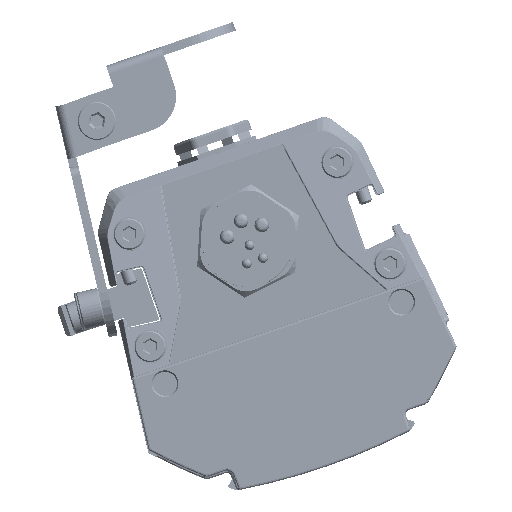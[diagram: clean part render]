
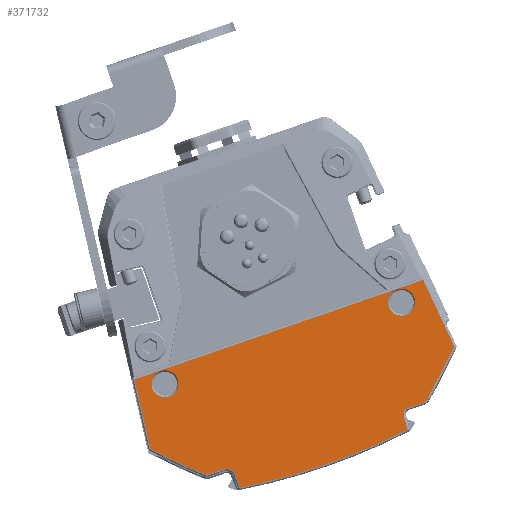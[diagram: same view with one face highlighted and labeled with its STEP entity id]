
A CAD part, left-side view. The second image highlights one B-rep face of the part: STEP entity #371732.
In plain terms, the highlighted planar face has unit normal (-1, 0, 0).
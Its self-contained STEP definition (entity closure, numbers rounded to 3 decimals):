
#371542=CARTESIAN_POINT('',(-339.713,-395.017,-205.8));
#371543=DIRECTION('',(-1.,0.,0.));
#371544=DIRECTION('',(0.,-0.326,-0.945));
#371545=AXIS2_PLACEMENT_3D('',#371542,#371543,#371544);
#371546=PLANE('',#371545);
#371547=CARTESIAN_POINT('',(-339.717,-218.37,39.37));
#371548=VERTEX_POINT('',#371547);
#371549=CARTESIAN_POINT('',(-339.717,-217.39,42.215));
#371550=DIRECTION('',(1.,0.,0.));
#371551=DIRECTION('',(0.,-0.326,-0.945));
#371552=AXIS2_PLACEMENT_3D('',#371549,#371550,#371551);
#371553=CIRCLE('',#371552,3.009);
#371554=EDGE_CURVE('',#371548,#371548,#371553,.T.);
#371555=ORIENTED_EDGE('',*,*,#371554,.T.);
#371556=EDGE_LOOP('',(#371555));
#371557=FACE_BOUND('',#371556,.T.);
#371558=CARTESIAN_POINT('',(-339.72,-165.425,21.128));
#371559=VERTEX_POINT('',#371558);
#371560=CARTESIAN_POINT('',(-339.72,-164.445,23.972));
#371561=DIRECTION('',(1.,0.,0.));
#371562=DIRECTION('',(0.,-0.326,-0.945));
#371563=AXIS2_PLACEMENT_3D('',#371560,#371561,#371562);
#371564=CIRCLE('',#371563,3.009);
#371565=EDGE_CURVE('',#371559,#371559,#371564,.T.);
#371566=ORIENTED_EDGE('',*,*,#371565,.T.);
#371567=EDGE_LOOP('',(#371566));
#371568=FACE_BOUND('',#371567,.T.);
#371569=CARTESIAN_POINT('',(-339.719,-180.255,3.528));
#371570=VERTEX_POINT('',#371569);
#371571=CARTESIAN_POINT('',(-339.719,-181.372,0.765));
#371572=VERTEX_POINT('',#371571);
#371573=CARTESIAN_POINT('',(-339.719,-180.255,3.528));
#371574=DIRECTION('',(0.,-0.375,-0.927));
#371575=VECTOR('',#371574,2.98);
#371576=LINE('',#371573,#371575);
#371577=EDGE_CURVE('',#371570,#371572,#371576,.T.);
#371578=ORIENTED_EDGE('',*,*,#371577,.T.);
#371579=CARTESIAN_POINT('',(-339.718,-200.236,5.859));
#371580=VERTEX_POINT('',#371579);
#371581=CARTESIAN_POINT('',(-339.718,-153.451,141.643));
#371582=DIRECTION('',(-1.,0.,0.));
#371583=DIRECTION('',(0.,-0.326,-0.945));
#371584=AXIS2_PLACEMENT_3D('',#371581,#371582,#371583);
#371585=CIRCLE('',#371584,143.618);
#371586=EDGE_CURVE('',#371572,#371580,#371585,.T.);
#371587=ORIENTED_EDGE('',*,*,#371586,.T.);
#371588=CARTESIAN_POINT('',(-339.718,-218.72,13.713));
#371589=VERTEX_POINT('',#371588);
#371590=CARTESIAN_POINT('',(-339.718,-153.451,141.643));
#371591=DIRECTION('',(-1.,0.,0.));
#371592=DIRECTION('',(0.,-0.326,-0.945));
#371593=AXIS2_PLACEMENT_3D('',#371590,#371591,#371592);
#371594=CIRCLE('',#371593,143.618);
#371595=EDGE_CURVE('',#371580,#371589,#371594,.T.);
#371596=ORIENTED_EDGE('',*,*,#371595,.T.);
#371597=CARTESIAN_POINT('',(-339.718,-217.923,16.49));
#371598=VERTEX_POINT('',#371597);
#371599=CARTESIAN_POINT('',(-339.718,-218.72,13.713));
#371600=DIRECTION('',(0.,0.276,0.961));
#371601=VECTOR('',#371600,2.889);
#371602=LINE('',#371599,#371601);
#371603=EDGE_CURVE('',#371589,#371598,#371602,.T.);
#371604=ORIENTED_EDGE('',*,*,#371603,.T.);
#371605=CARTESIAN_POINT('',(-339.717,-218.012,17.915));
#371606=VERTEX_POINT('',#371605);
#371607=CARTESIAN_POINT('',(-339.717,-219.716,17.092));
#371608=DIRECTION('',(1.,0.,0.));
#371609=DIRECTION('',(0.,-0.326,-0.945));
#371610=AXIS2_PLACEMENT_3D('',#371607,#371608,#371609);
#371611=CIRCLE('',#371610,1.892);
#371612=EDGE_CURVE('',#371598,#371606,#371611,.T.);
#371613=ORIENTED_EDGE('',*,*,#371612,.T.);
#371614=CARTESIAN_POINT('',(-339.717,-218.703,18.528));
#371615=VERTEX_POINT('',#371614);
#371616=CARTESIAN_POINT('',(-339.717,-219.093,17.393));
#371617=DIRECTION('',(1.,0.,0.));
#371618=DIRECTION('',(0.,-0.326,-0.945));
#371619=AXIS2_PLACEMENT_3D('',#371616,#371617,#371618);
#371620=CIRCLE('',#371619,1.2);
#371621=EDGE_CURVE('',#371606,#371615,#371620,.T.);
#371622=ORIENTED_EDGE('',*,*,#371621,.T.);
#371623=CARTESIAN_POINT('',(-339.717,-222.294,19.764));
#371624=VERTEX_POINT('',#371623);
#371625=CARTESIAN_POINT('',(-339.717,-218.703,18.528));
#371626=DIRECTION('',(0.,-0.946,0.325));
#371627=VECTOR('',#371626,3.798);
#371628=LINE('',#371625,#371627);
#371629=EDGE_CURVE('',#371615,#371624,#371628,.T.);
#371630=ORIENTED_EDGE('',*,*,#371629,.T.);
#371631=CARTESIAN_POINT('',(-339.717,-223.101,20.425));
#371632=VERTEX_POINT('',#371631);
#371633=CARTESIAN_POINT('',(-339.717,-221.806,21.182));
#371634=DIRECTION('',(-1.,0.,0.));
#371635=DIRECTION('',(0.,-0.326,-0.945));
#371636=AXIS2_PLACEMENT_3D('',#371633,#371634,#371635);
#371637=CIRCLE('',#371636,1.5);
#371638=EDGE_CURVE('',#371624,#371632,#371637,.T.);
#371639=ORIENTED_EDGE('',*,*,#371638,.T.);
#371640=CARTESIAN_POINT('',(-339.717,-229.197,32.278));
#371641=VERTEX_POINT('',#371640);
#371642=CARTESIAN_POINT('',(-339.717,-223.101,20.425));
#371643=CARTESIAN_POINT('',(-339.717,-223.379,20.906));
#371644=CARTESIAN_POINT('',(-339.717,-223.657,21.387));
#371645=CARTESIAN_POINT('',(-339.717,-223.93,21.871));
#371646=CARTESIAN_POINT('',(-339.717,-224.203,22.355));
#371647=CARTESIAN_POINT('',(-339.717,-224.473,22.841));
#371648=CARTESIAN_POINT('',(-339.717,-224.738,23.328));
#371649=CARTESIAN_POINT('',(-339.717,-225.27,24.304));
#371650=CARTESIAN_POINT('',(-339.717,-225.788,25.287));
#371651=CARTESIAN_POINT('',(-339.717,-226.291,26.278));
#371652=CARTESIAN_POINT('',(-339.717,-226.543,26.773));
#371653=CARTESIAN_POINT('',(-339.717,-226.791,27.27));
#371654=CARTESIAN_POINT('',(-339.717,-227.035,27.769));
#371655=CARTESIAN_POINT('',(-339.717,-227.28,28.268));
#371656=CARTESIAN_POINT('',(-339.717,-227.519,28.769));
#371657=CARTESIAN_POINT('',(-339.717,-227.758,29.271));
#371658=CARTESIAN_POINT('',(-339.717,-228.238,30.273));
#371659=CARTESIAN_POINT('',(-339.717,-228.717,31.275));
#371660=CARTESIAN_POINT('',(-339.717,-229.197,32.278));
#371661=B_SPLINE_CURVE_WITH_KNOTS('',3,(#371642,#371643,#371644,#371645,#371646,#371647,#371648,#371649,#371650,#371651,#371652,#371653,#371654,#371655,#371656,#371657,#371658,#371659,#371660),.UNSPECIFIED.,.F.,.F.,(4,3,3,3,3,3,4),(0.027,0.029,0.031,0.034,0.036,0.037,0.041),.UNSPECIFIED.);
#371662=EDGE_CURVE('',#371632,#371641,#371661,.T.);
#371663=ORIENTED_EDGE('',*,*,#371662,.T.);
#371664=CARTESIAN_POINT('',(-339.717,-222.228,47.199));
#371665=VERTEX_POINT('',#371664);
#371666=CARTESIAN_POINT('',(-339.717,-229.197,32.278));
#371667=DIRECTION('',(0.,0.423,0.906));
#371668=VECTOR('',#371667,16.468);
#371669=LINE('',#371666,#371668);
#371670=EDGE_CURVE('',#371641,#371665,#371669,.T.);
#371671=ORIENTED_EDGE('',*,*,#371670,.T.);
#371672=CARTESIAN_POINT('',(-339.72,-157.642,24.946));
#371673=VERTEX_POINT('',#371672);
#371674=CARTESIAN_POINT('',(-339.717,-222.228,47.199));
#371675=DIRECTION('',(0.,0.945,-0.326));
#371676=VECTOR('',#371675,68.312);
#371677=LINE('',#371674,#371676);
#371678=EDGE_CURVE('',#371665,#371673,#371677,.T.);
#371679=ORIENTED_EDGE('',*,*,#371678,.T.);
#371680=CARTESIAN_POINT('',(-339.72,-161.216,9.469));
#371681=VERTEX_POINT('',#371680);
#371682=CARTESIAN_POINT('',(-339.72,-157.642,24.946));
#371683=DIRECTION('',(0.,-0.225,-0.974));
#371684=VECTOR('',#371683,15.884);
#371685=LINE('',#371682,#371684);
#371686=EDGE_CURVE('',#371673,#371681,#371685,.T.);
#371687=ORIENTED_EDGE('',*,*,#371686,.T.);
#371688=CARTESIAN_POINT('',(-339.72,-173.468,3.726));
#371689=VERTEX_POINT('',#371688);
#371690=CARTESIAN_POINT('',(-339.716,-215.67,109.699));
#371691=DIRECTION('',(-1.,0.,0.));
#371692=DIRECTION('',(0.,-0.326,-0.945));
#371693=AXIS2_PLACEMENT_3D('',#371690,#371691,#371692);
#371694=CIRCLE('',#371693,114.067);
#371695=EDGE_CURVE('',#371681,#371689,#371694,.T.);
#371696=ORIENTED_EDGE('',*,*,#371695,.T.);
#371697=CARTESIAN_POINT('',(-339.72,-174.165,3.709));
#371698=VERTEX_POINT('',#371697);
#371699=CARTESIAN_POINT('',(-339.72,-173.838,4.655));
#371700=DIRECTION('',(-1.,0.,0.));
#371701=DIRECTION('',(0.,-0.326,-0.945));
#371702=AXIS2_PLACEMENT_3D('',#371699,#371700,#371701);
#371703=CIRCLE('',#371702,1.);
#371704=EDGE_CURVE('',#371689,#371698,#371703,.T.);
#371705=ORIENTED_EDGE('',*,*,#371704,.T.);
#371706=CARTESIAN_POINT('',(-339.719,-177.754,4.948));
#371707=VERTEX_POINT('',#371706);
#371708=CARTESIAN_POINT('',(-339.72,-174.165,3.709));
#371709=DIRECTION('',(0.,-0.945,0.326));
#371710=VECTOR('',#371709,3.798);
#371711=LINE('',#371708,#371710);
#371712=EDGE_CURVE('',#371698,#371707,#371711,.T.);
#371713=ORIENTED_EDGE('',*,*,#371712,.T.);
#371714=CARTESIAN_POINT('',(-339.719,-179.06,4.866));
#371715=VERTEX_POINT('',#371714);
#371716=CARTESIAN_POINT('',(-339.719,-178.309,3.341));
#371717=DIRECTION('',(1.,0.,0.));
#371718=DIRECTION('',(0.,-0.326,-0.945));
#371719=AXIS2_PLACEMENT_3D('',#371716,#371717,#371718);
#371720=CIRCLE('',#371719,1.7);
#371721=EDGE_CURVE('',#371707,#371715,#371720,.T.);
#371722=ORIENTED_EDGE('',*,*,#371721,.T.);
#371723=CARTESIAN_POINT('',(-339.719,-178.003,2.72));
#371724=DIRECTION('',(1.,0.,0.));
#371725=DIRECTION('',(0.,-0.326,-0.945));
#371726=AXIS2_PLACEMENT_3D('',#371723,#371724,#371725);
#371727=CIRCLE('',#371726,2.392);
#371728=EDGE_CURVE('',#371715,#371570,#371727,.T.);
#371729=ORIENTED_EDGE('',*,*,#371728,.T.);
#371730=EDGE_LOOP('',(#371578,#371587,#371596,#371604,#371613,#371622,#371630,#371639,#371663,#371671,#371679,#371687,#371696,#371705,#371713,#371722,#371729));
#371731=FACE_BOUND('',#371730,.T.);
#371732=ADVANCED_FACE('',(#371557,#371568,#371731),#371546,.T.);
